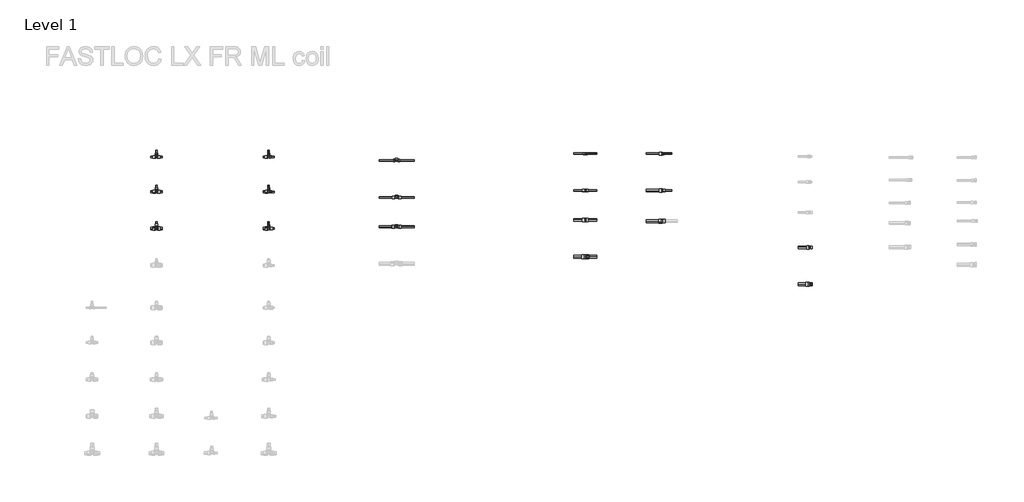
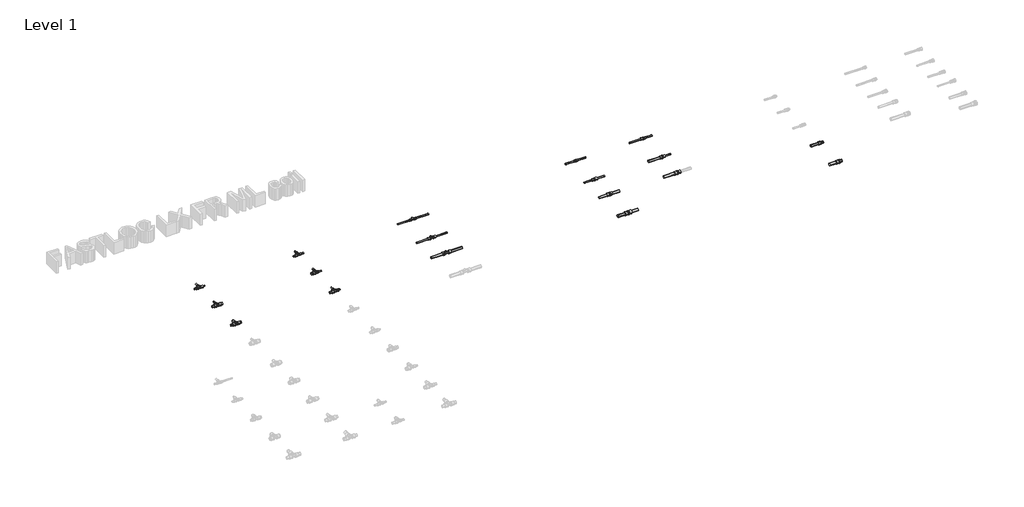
# One storey, part 35 of 78: 39 pipe segments, 18 pipe fittings.
"""IFC4 building model written with IfcOpenShell, lengths in millimetres."""

from ifc_helpers import new_model, si_unit, point, frame, frame_2d, origin, place, context, project, spatial, circle_curve, trimmed, segment, composite_curve, outline, extrude, transform, mapped, element, save
from components import pipe_fitting_027be69e, pipe_fitting_5ae7c970, pipe_fitting_e97a97d3, pipe_fitting_d9a56b63, pipe_fitting_8fb58d5f, pipe_fitting_db17a53a, pipe_fitting_3bea6388, pipe_fitting_d92d4423, pipe_fitting_47d0521d, pipe_fitting_29c4d4eb, pipe_fitting_1d22680d, pipe_fitting_5e3c5755, pipe_fitting_f5731c1c, pipe_fitting_0b32e4b0, pipe_fitting_0562571e, pipe_fitting_d14a7251, pipe_fitting_a999c26e, pipe_fitting_b01d00d0

model = new_model("IFC4")

# Units and contexts
model_context = context("Model", 3, world=origin())
ifc_project = project(units=[si_unit("LENGTHUNIT", "METRE", prefix="MILLI")], contexts=[model_context])

# Site, building, storey
site = spatial("IfcSite", under=ifc_project)
building = spatial("IfcBuilding", under=site)
storey = spatial("IfcBuildingStorey", under=building, Name="Level 1", Elevation=0.0)

# Pipe fittings
placement = place(None, origin())
pipe_fitting_shape = pipe_fitting_027be69e(model_context)
element("IfcPipeFitting", 1, ObjectType="FASTLOC_Coupling equal LX : FSL C LX FR", at=placement, inside=storey, context=model_context, shape_type="MappedRepresentation", body=[
    mapped(pipe_fitting_shape, transform((61088.3790161, -27105.8821283, 0.0), x_axis=(1.0, 0.0, 0.0), y_axis=(0.0, 1.0, 0.0), z_axis=(0.0, 0.0, 1.0))),
])
pipe_fitting_2_shape = pipe_fitting_5ae7c970(model_context)
element("IfcPipeFitting", 2, ObjectType="FASTLOC_T-piece_LX : FSL T-Piece LX FR", at=placement, inside=storey, context=model_context, shape_type="MappedRepresentation", body=[
    mapped(pipe_fitting_2_shape, transform((56426.7498072, -27140.2405791, 0.0), x_axis=(1.0, 0.0, 0.0), y_axis=(0.0, 1.0, 0.0), z_axis=(0.0, 0.0, 1.0))),
])
pipe_fitting_3_shape = pipe_fitting_e97a97d3(model_context)
element("IfcPipeFitting", 3, ObjectType="FASTLOC_T-piece_LX : FSL T-Piece LX FR", at=placement, inside=storey, context=model_context, shape_type="MappedRepresentation", body=[
    mapped(pipe_fitting_3_shape, transform((56426.7498072, -27520.2405791, 0.0), x_axis=(1.0, 0.0, 0.0), y_axis=(0.0, 1.0, 0.0), z_axis=(0.0, 0.0, 1.0))),
])
pipe_fitting_4_shape = pipe_fitting_d9a56b63(model_context)
element("IfcPipeFitting", 4, ObjectType="FASTLOC_T-piece_LX : FSL T-Piece LX FR", at=placement, inside=storey, context=model_context, shape_type="MappedRepresentation", body=[
    mapped(pipe_fitting_4_shape, transform((56426.7498072, -27920.2405791, 0.0), x_axis=(1.0, 0.0, 0.0), y_axis=(0.0, 1.0, 0.0), z_axis=(0.0, 0.0, 1.0))),
])
pipe_fitting_5_shape = pipe_fitting_8fb58d5f(model_context)
element("IfcPipeFitting", 5, ObjectType="FASTLOC_T-piece_LX : FSL T-Piece LX FR", at=placement, inside=storey, context=model_context, shape_type="MappedRepresentation", body=[
    mapped(pipe_fitting_5_shape, transform((57646.7498072, -27140.2405791, 0.0), x_axis=(1.0, 0.0, 0.0), y_axis=(0.0, 1.0, 0.0), z_axis=(0.0, 0.0, 1.0))),
])
pipe_fitting_6_shape = pipe_fitting_db17a53a(model_context)
element("IfcPipeFitting", 6, ObjectType="FASTLOC_T-piece_LX : FSL T-Piece LX FR", at=placement, inside=storey, context=model_context, shape_type="MappedRepresentation", body=[
    mapped(pipe_fitting_6_shape, transform((57646.7498072, -27520.2405791, 0.0), x_axis=(1.0, 0.0, 0.0), y_axis=(0.0, 1.0, 0.0), z_axis=(0.0, 0.0, 1.0))),
])
pipe_fitting_7_shape = pipe_fitting_3bea6388(model_context)
element("IfcPipeFitting", 7, ObjectType="FASTLOC_T-piece_LX : FSL T-Piece LX FR", at=placement, inside=storey, context=model_context, shape_type="MappedRepresentation", body=[
    mapped(pipe_fitting_7_shape, transform((57646.7498072, -27920.2405791, 0.0), x_axis=(1.0, 0.0, 0.0), y_axis=(0.0, 1.0, 0.0), z_axis=(0.0, 0.0, 1.0))),
])
pipe_fitting_8_shape = pipe_fitting_d92d4423(model_context)
element("IfcPipeFitting", 8, ObjectType="FASTLOC_T-piece internal thread LX : FSL T thread LX FR", at=placement, inside=storey, context=model_context, shape_type="MappedRepresentation", body=[
    mapped(pipe_fitting_8_shape, transform((59036.609585, -27179.8272875, 0.0), x_axis=(1.0, 0.0, 0.0), y_axis=(0.0, 1.0, 0.0), z_axis=(0.0, 0.0, 1.0))),
])
pipe_fitting_9_shape = pipe_fitting_47d0521d(model_context)
element("IfcPipeFitting", 9, ObjectType="FASTLOC_T-piece internal thread LX : FSL T thread LX FR", at=placement, inside=storey, context=model_context, shape_type="MappedRepresentation", body=[
    mapped(pipe_fitting_9_shape, transform((59036.609585, -27579.8272875, 0.0), x_axis=(1.0, 0.0, 0.0), y_axis=(0.0, 1.0, 0.0), z_axis=(0.0, 0.0, 1.0))),
])
pipe_fitting_10_shape = pipe_fitting_29c4d4eb(model_context)
element("IfcPipeFitting", 10, ObjectType="FASTLOC_T-piece internal thread LX : FSL T thread LX FR", at=placement, inside=storey, context=model_context, shape_type="MappedRepresentation", body=[
    mapped(pipe_fitting_10_shape, transform((59036.609585, -27899.8272875, 0.0), x_axis=(1.0, 0.0, 0.0), y_axis=(0.0, 1.0, 0.0), z_axis=(0.0, 0.0, 1.0))),
])
pipe_fitting_11_shape = pipe_fitting_1d22680d(model_context)
element("IfcPipeFitting", 11, ObjectType="FASTLOC_Coupling equal LX : FSL C LX FR", at=placement, inside=storey, context=model_context, shape_type="MappedRepresentation", body=[
    mapped(pipe_fitting_11_shape, transform((61088.3790161, -27505.8821283, 0.0), x_axis=(1.0, 0.0, 0.0), y_axis=(0.0, 1.0, 0.0), z_axis=(0.0, 0.0, 1.0))),
])
pipe_fitting_12_shape = pipe_fitting_5e3c5755(model_context)
element("IfcPipeFitting", 12, ObjectType="FASTLOC_Coupling equal LX : FSL C LX FR", at=placement, inside=storey, context=model_context, shape_type="MappedRepresentation", body=[
    mapped(pipe_fitting_12_shape, transform((61088.3790161, -27825.8821283, 0.0), x_axis=(1.0, 0.0, 0.0), y_axis=(0.0, 1.0, 0.0), z_axis=(0.0, 0.0, 1.0))),
])
pipe_fitting_13_shape = pipe_fitting_f5731c1c(model_context)
element("IfcPipeFitting", 13, ObjectType="FASTLOC_Coupling equal LX : FSL C LX FR", at=placement, inside=storey, context=model_context, shape_type="MappedRepresentation", body=[
    mapped(pipe_fitting_13_shape, transform((61088.3790161, -28225.8821283, 0.0), x_axis=(1.0, 0.0, 0.0), y_axis=(0.0, 1.0, 0.0), z_axis=(0.0, 0.0, 1.0))),
])
pipe_fitting_14_shape = pipe_fitting_0b32e4b0(model_context)
element("IfcPipeFitting", 14, ObjectType="FASTLOC_Coupling reduced LX : FSL C LX FR", at=placement, inside=storey, context=model_context, shape_type="MappedRepresentation", body=[
    mapped(pipe_fitting_14_shape, transform((61926.6928556, -27105.8821283, 0.0), x_axis=(1.0, 0.0, 0.0), y_axis=(0.0, 1.0, 0.0), z_axis=(0.0, 0.0, 1.0))),
])
pipe_fitting_15_shape = pipe_fitting_0562571e(model_context)
element("IfcPipeFitting", 15, ObjectType="FASTLOC_Coupling reduced LX : FSL C LX FR", at=placement, inside=storey, context=model_context, shape_type="MappedRepresentation", body=[
    mapped(pipe_fitting_15_shape, transform((61926.6928556, -27505.8821283, 0.0), x_axis=(1.0, 0.0, 0.0), y_axis=(0.0, 1.0, 0.0), z_axis=(0.0, 0.0, 1.0))),
])
pipe_fitting_16_shape = pipe_fitting_d14a7251(model_context)
element("IfcPipeFitting", 16, ObjectType="FASTLOC_Coupling reduced LX : FSL C LX FR", at=placement, inside=storey, context=model_context, shape_type="MappedRepresentation", body=[
    mapped(pipe_fitting_16_shape, transform((61926.6928556, -27838.3821283, 0.0), x_axis=(1.0, 0.0, 0.0), y_axis=(0.0, 1.0, 0.0), z_axis=(0.0, 0.0, 1.0))),
])
pipe_fitting_17_shape = pipe_fitting_a999c26e(model_context)
element("IfcPipeFitting", 17, ObjectType="FASTLOC_Adapter_LX, with external thread : FSL A C external FR", at=placement, inside=storey, context=model_context, shape_type="MappedRepresentation", body=[
    mapped(pipe_fitting_17_shape, transform((63526.8953131, -28124.2068389, 0.0), x_axis=(1.0, 0.0, 0.0), y_axis=(0.0, 1.0, 0.0), z_axis=(0.0, 0.0, 1.0))),
])
pipe_fitting_18_shape = pipe_fitting_b01d00d0(model_context)
element("IfcPipeFitting", 18, ObjectType="FASTLOC_Adapter_LX, with external thread : FSL A C external FR", at=placement, inside=storey, context=model_context, shape_type="MappedRepresentation", body=[
    mapped(pipe_fitting_18_shape, transform((63526.8953131, -28524.2068389, 0.0), x_axis=(1.0, 0.0, 0.0), y_axis=(0.0, 1.0, 0.0), z_axis=(0.0, 0.0, 1.0))),
])

# Pipe segments
element("IfcPipeSegment", 19, ObjectType="FASTLOC LX ML FR coil", at=placement, inside=storey, context=model_context, shape_type="SweptSolid", body=[
    extrude(outline(composite_curve([segment(trimmed(circle_curve(frame_2d((-27140.2405791, 0.0)), 8.0), [point((-27148.2405791, 0.0))], [point((-27140.2405791, 8.0))], False, "CARTESIAN"), True, "CONTINUOUS"), segment(trimmed(circle_curve(frame_2d((-27140.2405791, 0.0)), 8.0), [point((-27140.2405791, 8.0))], [point((-27132.2405791, 0.0))], False, "CARTESIAN"), True, "CONTINUOUS"), segment(trimmed(circle_curve(frame_2d((-27140.2405791, 0.0)), 8.0), [point((-27132.2405791, 0.0))], [point((-27140.2405791, -8.0))], False, "CARTESIAN"), True, "CONTINUOUS"), segment(trimmed(circle_curve(frame_2d((-27140.2405791, 0.0)), 8.0), [point((-27140.2405791, -8.0))], [point((-27148.2405791, 0.0))], False, "CARTESIAN"), True, "CONTINUOUS")], self_intersect=False)), frame((56442.0498072, 0.0, 0.0), z_axis=(1.0, 0.0, 0.0), x_axis=(0.0, 1.0, 0.0)), (0.0, 0.0, 1.0), 46.7),
])
element("IfcPipeSegment", 20, ObjectType="FASTLOC LX ML FR coil", at=placement, inside=storey, context=model_context, shape_type="SweptSolid", body=[
    extrude(outline(composite_curve([segment(trimmed(circle_curve(frame_2d((-27140.2405791, 0.0)), 8.0), [point((-27132.2405791, 0.0))], [point((-27140.2405791, -8.0))], False, "CARTESIAN"), True, "CONTINUOUS"), segment(trimmed(circle_curve(frame_2d((-27140.2405791, 0.0)), 8.0), [point((-27140.2405791, -8.0))], [point((-27148.2405791, 0.0))], False, "CARTESIAN"), True, "CONTINUOUS"), segment(trimmed(circle_curve(frame_2d((-27140.2405791, 0.0)), 8.0), [point((-27148.2405791, 0.0))], [point((-27140.2405791, 8.0))], False, "CARTESIAN"), True, "CONTINUOUS"), segment(trimmed(circle_curve(frame_2d((-27140.2405791, 0.0)), 8.0), [point((-27140.2405791, 8.0))], [point((-27132.2405791, 0.0))], False, "CARTESIAN"), True, "CONTINUOUS")], self_intersect=False)), frame((56364.7498072, 0.0, 0.0), z_axis=(1.0, 0.0, 0.0), x_axis=(0.0, 1.0, 0.0)), (0.0, 0.0, 1.0), 46.7),
])
element("IfcPipeSegment", 21, ObjectType="FASTLOC LX ML FR coil", at=placement, inside=storey, context=model_context, shape_type="SweptSolid", body=[
    extrude(outline(composite_curve([segment(trimmed(circle_curve(frame_2d((0.0, 56426.7498072)), 8.0), [point((0.0, 56434.7498072))], [point((8.0, 56426.7498072))], False, "CARTESIAN"), True, "CONTINUOUS"), segment(trimmed(circle_curve(frame_2d((0.0, 56426.7498072)), 8.0), [point((8.0, 56426.7498072))], [point((0.0, 56418.7498072))], False, "CARTESIAN"), True, "CONTINUOUS"), segment(trimmed(circle_curve(frame_2d((0.0, 56426.7498072)), 8.0), [point((0.0, 56418.7498072))], [point((-8.0, 56426.7498072))], False, "CARTESIAN"), True, "CONTINUOUS"), segment(trimmed(circle_curve(frame_2d((0.0, 56426.7498072)), 8.0), [point((-8.0, 56426.7498072))], [point((0.0, 56434.7498072))], False, "CARTESIAN"), True, "CONTINUOUS")], self_intersect=False)), frame((0.0, -27113.9405791, 0.0), z_axis=(0.0, 1.0, 0.0), x_axis=(0.0, 0.0, 1.0)), (0.0, 0.0, 1.0), 46.0),
])
element("IfcPipeSegment", 22, ObjectType="FASTLOC LX ML FR coil", at=placement, inside=storey, context=model_context, shape_type="SweptSolid", body=[
    extrude(outline(composite_curve([segment(trimmed(circle_curve(frame_2d((-27520.2405791, 0.0)), 12.5), [point((-27532.7405791, 0.0))], [point((-27520.2405791, 12.5))], False, "CARTESIAN"), True, "CONTINUOUS"), segment(trimmed(circle_curve(frame_2d((-27520.2405791, 0.0)), 12.5), [point((-27520.2405791, 12.5))], [point((-27507.7405791, 0.0))], False, "CARTESIAN"), True, "CONTINUOUS"), segment(trimmed(circle_curve(frame_2d((-27520.2405791, 0.0)), 12.5), [point((-27507.7405791, 0.0))], [point((-27520.2405791, -12.5))], False, "CARTESIAN"), True, "CONTINUOUS"), segment(trimmed(circle_curve(frame_2d((-27520.2405791, 0.0)), 12.5), [point((-27520.2405791, -12.5))], [point((-27532.7405791, 0.0))], False, "CARTESIAN"), True, "CONTINUOUS")], self_intersect=False)), frame((56442.9498072, 0.0, 0.0), z_axis=(1.0, 0.0, 0.0), x_axis=(0.0, 1.0, 0.0)), (0.0, 0.0, 1.0), 45.8),
])
element("IfcPipeSegment", 23, ObjectType="FASTLOC LX ML FR coil", at=placement, inside=storey, context=model_context, shape_type="SweptSolid", body=[
    extrude(outline(composite_curve([segment(trimmed(circle_curve(frame_2d((-27520.2405791, 0.0)), 12.5), [point((-27507.7405791, 0.0))], [point((-27520.2405791, -12.5))], False, "CARTESIAN"), True, "CONTINUOUS"), segment(trimmed(circle_curve(frame_2d((-27520.2405791, 0.0)), 12.5), [point((-27520.2405791, -12.5))], [point((-27532.7405791, 0.0))], False, "CARTESIAN"), True, "CONTINUOUS"), segment(trimmed(circle_curve(frame_2d((-27520.2405791, 0.0)), 12.5), [point((-27532.7405791, 0.0))], [point((-27520.2405791, 12.5))], False, "CARTESIAN"), True, "CONTINUOUS"), segment(trimmed(circle_curve(frame_2d((-27520.2405791, 0.0)), 12.5), [point((-27520.2405791, 12.5))], [point((-27507.7405791, 0.0))], False, "CARTESIAN"), True, "CONTINUOUS")], self_intersect=False)), frame((56364.7498072, 0.0, 0.0), z_axis=(1.0, 0.0, 0.0), x_axis=(0.0, 1.0, 0.0)), (0.0, 0.0, 1.0), 45.8),
])
element("IfcPipeSegment", 24, ObjectType="FASTLOC LX ML FR coil", at=placement, inside=storey, context=model_context, shape_type="SweptSolid", body=[
    extrude(outline(composite_curve([segment(trimmed(circle_curve(frame_2d((0.0, 56426.7498072)), 8.0), [point((0.0, 56434.7498072))], [point((8.0, 56426.7498072))], False, "CARTESIAN"), True, "CONTINUOUS"), segment(trimmed(circle_curve(frame_2d((0.0, 56426.7498072)), 8.0), [point((8.0, 56426.7498072))], [point((0.0, 56418.7498072))], False, "CARTESIAN"), True, "CONTINUOUS"), segment(trimmed(circle_curve(frame_2d((0.0, 56426.7498072)), 8.0), [point((0.0, 56418.7498072))], [point((-8.0, 56426.7498072))], False, "CARTESIAN"), True, "CONTINUOUS"), segment(trimmed(circle_curve(frame_2d((0.0, 56426.7498072)), 8.0), [point((-8.0, 56426.7498072))], [point((0.0, 56434.7498072))], False, "CARTESIAN"), True, "CONTINUOUS")], self_intersect=False)), frame((0.0, -27491.2405791, 0.0), z_axis=(0.0, 1.0, 0.0), x_axis=(0.0, 0.0, 1.0)), (0.0, 0.0, 1.0), 43.3),
])
element("IfcPipeSegment", 25, ObjectType="FASTLOC LX ML FR coil", at=placement, inside=storey, context=model_context, shape_type="SweptSolid", body=[
    extrude(outline(composite_curve([segment(trimmed(circle_curve(frame_2d((-27920.2405791, 0.0)), 12.5), [point((-27932.7405791, 0.0))], [point((-27920.2405791, 12.5))], False, "CARTESIAN"), True, "CONTINUOUS"), segment(trimmed(circle_curve(frame_2d((-27920.2405791, 0.0)), 12.5), [point((-27920.2405791, 12.5))], [point((-27907.7405791, 0.0))], False, "CARTESIAN"), True, "CONTINUOUS"), segment(trimmed(circle_curve(frame_2d((-27920.2405791, 0.0)), 12.5), [point((-27907.7405791, 0.0))], [point((-27920.2405791, -12.5))], False, "CARTESIAN"), True, "CONTINUOUS"), segment(trimmed(circle_curve(frame_2d((-27920.2405791, 0.0)), 12.5), [point((-27920.2405791, -12.5))], [point((-27932.7405791, 0.0))], False, "CARTESIAN"), True, "CONTINUOUS")], self_intersect=False)), frame((56444.8498072, 0.0, 0.0), z_axis=(1.0, 0.0, 0.0), x_axis=(0.0, 1.0, 0.0)), (0.0, 0.0, 1.0), 43.9),
])
element("IfcPipeSegment", 26, ObjectType="FASTLOC LX ML FR coil", at=placement, inside=storey, context=model_context, shape_type="SweptSolid", body=[
    extrude(outline(composite_curve([segment(trimmed(circle_curve(frame_2d((-27920.2405791, 0.0)), 12.5), [point((-27907.7405791, 0.0))], [point((-27920.2405791, -12.5))], False, "CARTESIAN"), True, "CONTINUOUS"), segment(trimmed(circle_curve(frame_2d((-27920.2405791, 0.0)), 12.5), [point((-27920.2405791, -12.5))], [point((-27932.7405791, 0.0))], False, "CARTESIAN"), True, "CONTINUOUS"), segment(trimmed(circle_curve(frame_2d((-27920.2405791, 0.0)), 12.5), [point((-27932.7405791, 0.0))], [point((-27920.2405791, 12.5))], False, "CARTESIAN"), True, "CONTINUOUS"), segment(trimmed(circle_curve(frame_2d((-27920.2405791, 0.0)), 12.5), [point((-27920.2405791, 12.5))], [point((-27907.7405791, 0.0))], False, "CARTESIAN"), True, "CONTINUOUS")], self_intersect=False)), frame((56364.7498072, 0.0, 0.0), z_axis=(1.0, 0.0, 0.0), x_axis=(0.0, 1.0, 0.0)), (0.0, 0.0, 1.0), 43.9),
])
element("IfcPipeSegment", 27, ObjectType="FASTLOC LX ML FR coil", at=placement, inside=storey, context=model_context, shape_type="SweptSolid", body=[
    extrude(outline(composite_curve([segment(trimmed(circle_curve(frame_2d((0.0, 56426.7498072)), 8.0), [point((0.0, 56434.7498072))], [point((8.0, 56426.7498072))], False, "CARTESIAN"), True, "CONTINUOUS"), segment(trimmed(circle_curve(frame_2d((0.0, 56426.7498072)), 8.0), [point((8.0, 56426.7498072))], [point((0.0, 56418.7498072))], False, "CARTESIAN"), True, "CONTINUOUS"), segment(trimmed(circle_curve(frame_2d((0.0, 56426.7498072)), 8.0), [point((0.0, 56418.7498072))], [point((-8.0, 56426.7498072))], False, "CARTESIAN"), True, "CONTINUOUS"), segment(trimmed(circle_curve(frame_2d((0.0, 56426.7498072)), 8.0), [point((-8.0, 56426.7498072))], [point((0.0, 56434.7498072))], False, "CARTESIAN"), True, "CONTINUOUS")], self_intersect=False)), frame((0.0, -27891.0405791, 0.0), z_axis=(0.0, 1.0, 0.0), x_axis=(0.0, 0.0, 1.0)), (0.0, 0.0, 1.0), 43.1),
])
element("IfcPipeSegment", 28, ObjectType="FASTLOC LX ML FR coil", at=placement, inside=storey, context=model_context, shape_type="SweptSolid", body=[
    extrude(outline(composite_curve([segment(trimmed(circle_curve(frame_2d((-27140.2405791, 0.0)), 8.0), [point((-27148.2405791, 0.0))], [point((-27140.2405791, 8.0))], False, "CARTESIAN"), True, "CONTINUOUS"), segment(trimmed(circle_curve(frame_2d((-27140.2405791, 0.0)), 8.0), [point((-27140.2405791, 8.0))], [point((-27132.2405791, 0.0))], False, "CARTESIAN"), True, "CONTINUOUS"), segment(trimmed(circle_curve(frame_2d((-27140.2405791, 0.0)), 8.0), [point((-27132.2405791, 0.0))], [point((-27140.2405791, -8.0))], False, "CARTESIAN"), True, "CONTINUOUS"), segment(trimmed(circle_curve(frame_2d((-27140.2405791, 0.0)), 8.0), [point((-27140.2405791, -8.0))], [point((-27148.2405791, 0.0))], False, "CARTESIAN"), True, "CONTINUOUS")], self_intersect=False)), frame((57661.8498072, 0.0, 0.0), z_axis=(1.0, 0.0, 0.0), x_axis=(0.0, 1.0, 0.0)), (0.0, 0.0, 1.0), 46.9),
])
element("IfcPipeSegment", 29, ObjectType="FASTLOC LX ML FR coil", at=placement, inside=storey, context=model_context, shape_type="SweptSolid", body=[
    extrude(outline(composite_curve([segment(trimmed(circle_curve(frame_2d((-27140.2405791, 0.0)), 8.0), [point((-27132.2405791, 0.0))], [point((-27140.2405791, -8.0))], False, "CARTESIAN"), True, "CONTINUOUS"), segment(trimmed(circle_curve(frame_2d((-27140.2405791, 0.0)), 8.0), [point((-27140.2405791, -8.0))], [point((-27148.2405791, 0.0))], False, "CARTESIAN"), True, "CONTINUOUS"), segment(trimmed(circle_curve(frame_2d((-27140.2405791, 0.0)), 8.0), [point((-27148.2405791, 0.0))], [point((-27140.2405791, 8.0))], False, "CARTESIAN"), True, "CONTINUOUS"), segment(trimmed(circle_curve(frame_2d((-27140.2405791, 0.0)), 8.0), [point((-27140.2405791, 8.0))], [point((-27132.2405791, 0.0))], False, "CARTESIAN"), True, "CONTINUOUS")], self_intersect=False)), frame((57584.7498072, 0.0, 0.0), z_axis=(1.0, 0.0, 0.0), x_axis=(0.0, 1.0, 0.0)), (0.0, 0.0, 1.0), 46.5),
])
element("IfcPipeSegment", 30, ObjectType="FASTLOC LX ML FR coil", at=placement, inside=storey, context=model_context, shape_type="SweptSolid", body=[
    extrude(outline(composite_curve([segment(trimmed(circle_curve(frame_2d((0.0, 57646.7498072)), 8.0), [point((0.0, 57654.7498072))], [point((8.0, 57646.7498072))], False, "CARTESIAN"), True, "CONTINUOUS"), segment(trimmed(circle_curve(frame_2d((0.0, 57646.7498072)), 8.0), [point((8.0, 57646.7498072))], [point((0.0, 57638.7498072))], False, "CARTESIAN"), True, "CONTINUOUS"), segment(trimmed(circle_curve(frame_2d((0.0, 57646.7498072)), 8.0), [point((0.0, 57638.7498072))], [point((-8.0, 57646.7498072))], False, "CARTESIAN"), True, "CONTINUOUS"), segment(trimmed(circle_curve(frame_2d((0.0, 57646.7498072)), 8.0), [point((-8.0, 57646.7498072))], [point((0.0, 57654.7498072))], False, "CARTESIAN"), True, "CONTINUOUS")], self_intersect=False)), frame((0.0, -27113.8405791, 0.0), z_axis=(0.0, 1.0, 0.0), x_axis=(0.0, 0.0, 1.0)), (0.0, 0.0, 1.0), 45.9),
])
element("IfcPipeSegment", 31, ObjectType="FASTLOC LX ML FR coil", at=placement, inside=storey, context=model_context, shape_type="SweptSolid", body=[
    extrude(outline(composite_curve([segment(trimmed(circle_curve(frame_2d((-27520.2405791, 0.0)), 8.0), [point((-27528.2405791, 0.0))], [point((-27520.2405791, 8.0))], False, "CARTESIAN"), True, "CONTINUOUS"), segment(trimmed(circle_curve(frame_2d((-27520.2405791, 0.0)), 8.0), [point((-27520.2405791, 8.0))], [point((-27512.2405791, 0.0))], False, "CARTESIAN"), True, "CONTINUOUS"), segment(trimmed(circle_curve(frame_2d((-27520.2405791, 0.0)), 8.0), [point((-27512.2405791, 0.0))], [point((-27520.2405791, -8.0))], False, "CARTESIAN"), True, "CONTINUOUS"), segment(trimmed(circle_curve(frame_2d((-27520.2405791, 0.0)), 8.0), [point((-27520.2405791, -8.0))], [point((-27528.2405791, 0.0))], False, "CARTESIAN"), True, "CONTINUOUS")], self_intersect=False)), frame((57661.8498072, 0.0, 0.0), z_axis=(1.0, 0.0, 0.0), x_axis=(0.0, 1.0, 0.0)), (0.0, 0.0, 1.0), 46.9),
])
element("IfcPipeSegment", 32, ObjectType="FASTLOC LX ML FR coil", at=placement, inside=storey, context=model_context, shape_type="SweptSolid", body=[
    extrude(outline(composite_curve([segment(trimmed(circle_curve(frame_2d((-27520.2405791, 0.0)), 12.5), [point((-27507.7405791, 0.0))], [point((-27520.2405791, -12.5))], False, "CARTESIAN"), True, "CONTINUOUS"), segment(trimmed(circle_curve(frame_2d((-27520.2405791, 0.0)), 12.5), [point((-27520.2405791, -12.5))], [point((-27532.7405791, 0.0))], False, "CARTESIAN"), True, "CONTINUOUS"), segment(trimmed(circle_curve(frame_2d((-27520.2405791, 0.0)), 12.5), [point((-27532.7405791, 0.0))], [point((-27520.2405791, 12.5))], False, "CARTESIAN"), True, "CONTINUOUS"), segment(trimmed(circle_curve(frame_2d((-27520.2405791, 0.0)), 12.5), [point((-27520.2405791, 12.5))], [point((-27507.7405791, 0.0))], False, "CARTESIAN"), True, "CONTINUOUS")], self_intersect=False)), frame((57584.7498072, 0.0, 0.0), z_axis=(1.0, 0.0, 0.0), x_axis=(0.0, 1.0, 0.0)), (0.0, 0.0, 1.0), 45.6),
])
element("IfcPipeSegment", 33, ObjectType="FASTLOC LX ML FR coil", at=placement, inside=storey, context=model_context, shape_type="SweptSolid", body=[
    extrude(outline(composite_curve([segment(trimmed(circle_curve(frame_2d((0.0, 57646.7498072)), 8.0), [point((0.0, 57654.7498072))], [point((8.0, 57646.7498072))], False, "CARTESIAN"), True, "CONTINUOUS"), segment(trimmed(circle_curve(frame_2d((0.0, 57646.7498072)), 8.0), [point((8.0, 57646.7498072))], [point((0.0, 57638.7498072))], False, "CARTESIAN"), True, "CONTINUOUS"), segment(trimmed(circle_curve(frame_2d((0.0, 57646.7498072)), 8.0), [point((0.0, 57638.7498072))], [point((-8.0, 57646.7498072))], False, "CARTESIAN"), True, "CONTINUOUS"), segment(trimmed(circle_curve(frame_2d((0.0, 57646.7498072)), 8.0), [point((-8.0, 57646.7498072))], [point((0.0, 57654.7498072))], False, "CARTESIAN"), True, "CONTINUOUS")], self_intersect=False)), frame((0.0, -27491.1405791, 0.0), z_axis=(0.0, 1.0, 0.0), x_axis=(0.0, 0.0, 1.0)), (0.0, 0.0, 1.0), 43.2),
])
element("IfcPipeSegment", 34, ObjectType="FASTLOC LX ML FR coil", at=placement, inside=storey, context=model_context, shape_type="SweptSolid", body=[
    extrude(outline(composite_curve([segment(trimmed(circle_curve(frame_2d((-27920.2405791, 0.0)), 8.0), [point((-27928.2405791, 0.0))], [point((-27920.2405791, 8.0))], False, "CARTESIAN"), True, "CONTINUOUS"), segment(trimmed(circle_curve(frame_2d((-27920.2405791, 0.0)), 8.0), [point((-27920.2405791, 8.0))], [point((-27912.2405791, 0.0))], False, "CARTESIAN"), True, "CONTINUOUS"), segment(trimmed(circle_curve(frame_2d((-27920.2405791, 0.0)), 8.0), [point((-27912.2405791, 0.0))], [point((-27920.2405791, -8.0))], False, "CARTESIAN"), True, "CONTINUOUS"), segment(trimmed(circle_curve(frame_2d((-27920.2405791, 0.0)), 8.0), [point((-27920.2405791, -8.0))], [point((-27928.2405791, 0.0))], False, "CARTESIAN"), True, "CONTINUOUS")], self_intersect=False)), frame((57662.2498072, 0.0, 0.0), z_axis=(1.0, 0.0, 0.0), x_axis=(0.0, 1.0, 0.0)), (0.0, 0.0, 1.0), 46.5),
])
element("IfcPipeSegment", 35, ObjectType="FASTLOC LX ML FR coil", at=placement, inside=storey, context=model_context, shape_type="SweptSolid", body=[
    extrude(outline(composite_curve([segment(trimmed(circle_curve(frame_2d((-27920.2405791, 0.0)), 12.5), [point((-27907.7405791, 0.0))], [point((-27920.2405791, -12.5))], False, "CARTESIAN"), True, "CONTINUOUS"), segment(trimmed(circle_curve(frame_2d((-27920.2405791, 0.0)), 12.5), [point((-27920.2405791, -12.5))], [point((-27932.7405791, 0.0))], False, "CARTESIAN"), True, "CONTINUOUS"), segment(trimmed(circle_curve(frame_2d((-27920.2405791, 0.0)), 12.5), [point((-27932.7405791, 0.0))], [point((-27920.2405791, 12.5))], False, "CARTESIAN"), True, "CONTINUOUS"), segment(trimmed(circle_curve(frame_2d((-27920.2405791, 0.0)), 12.5), [point((-27920.2405791, 12.5))], [point((-27907.7405791, 0.0))], False, "CARTESIAN"), True, "CONTINUOUS")], self_intersect=False)), frame((57584.7498072, 0.0, 0.0), z_axis=(1.0, 0.0, 0.0), x_axis=(0.0, 1.0, 0.0)), (0.0, 0.0, 1.0), 45.6),
])
element("IfcPipeSegment", 36, ObjectType="FASTLOC LX ML FR coil", at=placement, inside=storey, context=model_context, shape_type="SweptSolid", body=[
    extrude(outline(composite_curve([segment(trimmed(circle_curve(frame_2d((0.0, 57646.7498072)), 8.0), [point((0.0, 57654.7498072))], [point((8.0, 57646.7498072))], False, "CARTESIAN"), True, "CONTINUOUS"), segment(trimmed(circle_curve(frame_2d((0.0, 57646.7498072)), 8.0), [point((8.0, 57646.7498072))], [point((0.0, 57638.7498072))], False, "CARTESIAN"), True, "CONTINUOUS"), segment(trimmed(circle_curve(frame_2d((0.0, 57646.7498072)), 8.0), [point((0.0, 57638.7498072))], [point((-8.0, 57646.7498072))], False, "CARTESIAN"), True, "CONTINUOUS"), segment(trimmed(circle_curve(frame_2d((0.0, 57646.7498072)), 8.0), [point((-8.0, 57646.7498072))], [point((0.0, 57654.7498072))], False, "CARTESIAN"), True, "CONTINUOUS")], self_intersect=False)), frame((0.0, -27891.1405791, 0.0), z_axis=(0.0, 1.0, 0.0), x_axis=(0.0, 0.0, 1.0)), (0.0, 0.0, 1.0), 43.2),
])
element("IfcPipeSegment", 37, ObjectType="FASTLOC LX ML FR coil", at=placement, inside=storey, context=model_context, shape_type="SweptSolid", body=[
    extrude(outline(composite_curve([segment(trimmed(circle_curve(frame_2d((-27179.8272875, 0.0)), 8.0), [point((-27187.8272875, 0.0))], [point((-27179.8272875, 8.0))], False, "CARTESIAN"), True, "CONTINUOUS"), segment(trimmed(circle_curve(frame_2d((-27179.8272875, 0.0)), 8.0), [point((-27179.8272875, 8.0))], [point((-27171.8272875, 0.0))], False, "CARTESIAN"), True, "CONTINUOUS"), segment(trimmed(circle_curve(frame_2d((-27179.8272875, 0.0)), 8.0), [point((-27171.8272875, 0.0))], [point((-27179.8272875, -8.0))], False, "CARTESIAN"), True, "CONTINUOUS"), segment(trimmed(circle_curve(frame_2d((-27179.8272875, 0.0)), 8.0), [point((-27179.8272875, -8.0))], [point((-27187.8272875, 0.0))], False, "CARTESIAN"), True, "CONTINUOUS")], self_intersect=False)), frame((59058.609585, 0.0, 0.0), z_axis=(1.0, 0.0, 0.0), x_axis=(0.0, 1.0, 0.0)), (0.0, 0.0, 1.0), 170.0),
])
element("IfcPipeSegment", 38, ObjectType="FASTLOC LX ML FR coil", at=placement, inside=storey, context=model_context, shape_type="SweptSolid", body=[
    extrude(outline(composite_curve([segment(trimmed(circle_curve(frame_2d((-27179.8272875, 0.0)), 8.0), [point((-27171.8272875, 0.0))], [point((-27179.8272875, -8.0))], False, "CARTESIAN"), True, "CONTINUOUS"), segment(trimmed(circle_curve(frame_2d((-27179.8272875, 0.0)), 8.0), [point((-27179.8272875, -8.0))], [point((-27187.8272875, 0.0))], False, "CARTESIAN"), True, "CONTINUOUS"), segment(trimmed(circle_curve(frame_2d((-27179.8272875, 0.0)), 8.0), [point((-27187.8272875, 0.0))], [point((-27179.8272875, 8.0))], False, "CARTESIAN"), True, "CONTINUOUS"), segment(trimmed(circle_curve(frame_2d((-27179.8272875, 0.0)), 8.0), [point((-27179.8272875, 8.0))], [point((-27171.8272875, 0.0))], False, "CARTESIAN"), True, "CONTINUOUS")], self_intersect=False)), frame((58849.609585, 0.0, 0.0), z_axis=(1.0, 0.0, 0.0), x_axis=(0.0, 1.0, 0.0)), (0.0, 0.0, 1.0), 165.0),
])
element("IfcPipeSegment", 39, ObjectType="FASTLOC LX ML FR coil", at=placement, inside=storey, context=model_context, shape_type="SweptSolid", body=[
    extrude(outline(composite_curve([segment(trimmed(circle_curve(frame_2d((-27579.8272875, 0.0)), 8.0), [point((-27587.8272875, 0.0))], [point((-27579.8272875, 8.0))], False, "CARTESIAN"), True, "CONTINUOUS"), segment(trimmed(circle_curve(frame_2d((-27579.8272875, 0.0)), 8.0), [point((-27579.8272875, 8.0))], [point((-27571.8272875, 0.0))], False, "CARTESIAN"), True, "CONTINUOUS"), segment(trimmed(circle_curve(frame_2d((-27579.8272875, 0.0)), 8.0), [point((-27571.8272875, 0.0))], [point((-27579.8272875, -8.0))], False, "CARTESIAN"), True, "CONTINUOUS"), segment(trimmed(circle_curve(frame_2d((-27579.8272875, 0.0)), 8.0), [point((-27579.8272875, -8.0))], [point((-27587.8272875, 0.0))], False, "CARTESIAN"), True, "CONTINUOUS")], self_intersect=False)), frame((59059.109585, 0.0, 0.0), z_axis=(1.0, 0.0, 0.0), x_axis=(0.0, 1.0, 0.0)), (0.0, 0.0, 1.0), 169.5),
])
element("IfcPipeSegment", 40, ObjectType="FASTLOC LX ML FR coil", at=placement, inside=storey, context=model_context, shape_type="SweptSolid", body=[
    extrude(outline(composite_curve([segment(trimmed(circle_curve(frame_2d((-27579.8272875, 0.0)), 8.0), [point((-27571.8272875, 0.0))], [point((-27579.8272875, -8.0))], False, "CARTESIAN"), True, "CONTINUOUS"), segment(trimmed(circle_curve(frame_2d((-27579.8272875, 0.0)), 8.0), [point((-27579.8272875, -8.0))], [point((-27587.8272875, 0.0))], False, "CARTESIAN"), True, "CONTINUOUS"), segment(trimmed(circle_curve(frame_2d((-27579.8272875, 0.0)), 8.0), [point((-27587.8272875, 0.0))], [point((-27579.8272875, 8.0))], False, "CARTESIAN"), True, "CONTINUOUS"), segment(trimmed(circle_curve(frame_2d((-27579.8272875, 0.0)), 8.0), [point((-27579.8272875, 8.0))], [point((-27571.8272875, 0.0))], False, "CARTESIAN"), True, "CONTINUOUS")], self_intersect=False)), frame((58849.609585, 0.0, 0.0), z_axis=(1.0, 0.0, 0.0), x_axis=(0.0, 1.0, 0.0)), (0.0, 0.0, 1.0), 164.5),
])
element("IfcPipeSegment", 41, ObjectType="FASTLOC LX ML FR coil", at=placement, inside=storey, context=model_context, shape_type="SweptSolid", body=[
    extrude(outline(composite_curve([segment(trimmed(circle_curve(frame_2d((-27899.8272875, 0.0)), 12.5), [point((-27912.3272875, 0.0))], [point((-27899.8272875, 12.5))], False, "CARTESIAN"), True, "CONTINUOUS"), segment(trimmed(circle_curve(frame_2d((-27899.8272875, 0.0)), 12.5), [point((-27899.8272875, 12.5))], [point((-27887.3272875, 0.0))], False, "CARTESIAN"), True, "CONTINUOUS"), segment(trimmed(circle_curve(frame_2d((-27899.8272875, 0.0)), 12.5), [point((-27887.3272875, 0.0))], [point((-27899.8272875, -12.5))], False, "CARTESIAN"), True, "CONTINUOUS"), segment(trimmed(circle_curve(frame_2d((-27899.8272875, 0.0)), 12.5), [point((-27899.8272875, -12.5))], [point((-27912.3272875, 0.0))], False, "CARTESIAN"), True, "CONTINUOUS")], self_intersect=False)), frame((59063.309585, 0.0, 0.0), z_axis=(1.0, 0.0, 0.0), x_axis=(0.0, 1.0, 0.0)), (0.0, 0.0, 1.0), 165.3),
])
element("IfcPipeSegment", 42, ObjectType="FASTLOC LX ML FR coil", at=placement, inside=storey, context=model_context, shape_type="SweptSolid", body=[
    extrude(outline(composite_curve([segment(trimmed(circle_curve(frame_2d((-27899.8272875, 0.0)), 12.5), [point((-27887.3272875, 0.0))], [point((-27899.8272875, -12.5))], False, "CARTESIAN"), True, "CONTINUOUS"), segment(trimmed(circle_curve(frame_2d((-27899.8272875, 0.0)), 12.5), [point((-27899.8272875, -12.5))], [point((-27912.3272875, 0.0))], False, "CARTESIAN"), True, "CONTINUOUS"), segment(trimmed(circle_curve(frame_2d((-27899.8272875, 0.0)), 12.5), [point((-27912.3272875, 0.0))], [point((-27899.8272875, 12.5))], False, "CARTESIAN"), True, "CONTINUOUS"), segment(trimmed(circle_curve(frame_2d((-27899.8272875, 0.0)), 12.5), [point((-27899.8272875, 12.5))], [point((-27887.3272875, 0.0))], False, "CARTESIAN"), True, "CONTINUOUS")], self_intersect=False)), frame((58849.609585, 0.0, 0.0), z_axis=(1.0, 0.0, 0.0), x_axis=(0.0, 1.0, 0.0)), (0.0, 0.0, 1.0), 160.3),
])
element("IfcPipeSegment", 43, ObjectType="FASTLOC LX ML FR coil", at=placement, inside=storey, context=model_context, shape_type="SweptSolid", body=[
    extrude(outline(composite_curve([segment(trimmed(circle_curve(frame_2d((-27105.8821283, 0.0)), 8.0), [point((-27113.8821283, 0.0))], [point((-27105.8821283, 8.0))], False, "CARTESIAN"), True, "CONTINUOUS"), segment(trimmed(circle_curve(frame_2d((-27105.8821283, 0.0)), 8.0), [point((-27105.8821283, 8.0))], [point((-27097.8821283, 0.0))], False, "CARTESIAN"), True, "CONTINUOUS"), segment(trimmed(circle_curve(frame_2d((-27105.8821283, 0.0)), 8.0), [point((-27097.8821283, 0.0))], [point((-27105.8821283, -8.0))], False, "CARTESIAN"), True, "CONTINUOUS"), segment(trimmed(circle_curve(frame_2d((-27105.8821283, 0.0)), 8.0), [point((-27105.8821283, -8.0))], [point((-27113.8821283, 0.0))], False, "CARTESIAN"), True, "CONTINUOUS")], self_intersect=False)), frame((61095.5790161, 0.0, 0.0), z_axis=(1.0, 0.0, 0.0), x_axis=(0.0, 1.0, 0.0)), (0.0, 0.0, 1.0), 115.0),
])
element("IfcPipeSegment", 44, ObjectType="FASTLOC LX ML FR coil", at=placement, inside=storey, context=model_context, shape_type="SweptSolid", body=[
    extrude(outline(composite_curve([segment(trimmed(circle_curve(frame_2d((-27105.8821283, 0.0)), 8.0), [point((-27097.8821283, 0.0))], [point((-27105.8821283, -8.0))], False, "CARTESIAN"), True, "CONTINUOUS"), segment(trimmed(circle_curve(frame_2d((-27105.8821283, 0.0)), 8.0), [point((-27105.8821283, -8.0))], [point((-27113.8821283, 0.0))], False, "CARTESIAN"), True, "CONTINUOUS"), segment(trimmed(circle_curve(frame_2d((-27105.8821283, 0.0)), 8.0), [point((-27113.8821283, 0.0))], [point((-27105.8821283, 8.0))], False, "CARTESIAN"), True, "CONTINUOUS"), segment(trimmed(circle_curve(frame_2d((-27105.8821283, 0.0)), 8.0), [point((-27105.8821283, 8.0))], [point((-27097.8821283, 0.0))], False, "CARTESIAN"), True, "CONTINUOUS")], self_intersect=False)), frame((60961.1790161, 0.0, 0.0), z_axis=(1.0, 0.0, 0.0), x_axis=(0.0, 1.0, 0.0)), (0.0, 0.0, 1.0), 120.0),
])
element("IfcPipeSegment", 45, ObjectType="FASTLOC LX ML FR coil", at=placement, inside=storey, context=model_context, shape_type="SweptSolid", body=[
    extrude(outline(composite_curve([segment(trimmed(circle_curve(frame_2d((-27505.8821283, 0.0)), 8.0), [point((-27513.8821283, 0.0))], [point((-27505.8821283, 8.0))], False, "CARTESIAN"), True, "CONTINUOUS"), segment(trimmed(circle_curve(frame_2d((-27505.8821283, 0.0)), 8.0), [point((-27505.8821283, 8.0))], [point((-27497.8821283, 0.0))], False, "CARTESIAN"), True, "CONTINUOUS"), segment(trimmed(circle_curve(frame_2d((-27505.8821283, 0.0)), 8.0), [point((-27497.8821283, 0.0))], [point((-27505.8821283, -8.0))], False, "CARTESIAN"), True, "CONTINUOUS"), segment(trimmed(circle_curve(frame_2d((-27505.8821283, 0.0)), 8.0), [point((-27505.8821283, -8.0))], [point((-27513.8821283, 0.0))], False, "CARTESIAN"), True, "CONTINUOUS")], self_intersect=False)), frame((61095.7790161, 0.0, 0.0), z_axis=(1.0, 0.0, 0.0), x_axis=(0.0, 1.0, 0.0)), (0.0, 0.0, 1.0), 114.8),
])
element("IfcPipeSegment", 46, ObjectType="FASTLOC LX ML FR coil", at=placement, inside=storey, context=model_context, shape_type="SweptSolid", body=[
    extrude(outline(composite_curve([segment(trimmed(circle_curve(frame_2d((-27505.8821283, 0.0)), 8.0), [point((-27497.8821283, 0.0))], [point((-27505.8821283, -8.0))], False, "CARTESIAN"), True, "CONTINUOUS"), segment(trimmed(circle_curve(frame_2d((-27505.8821283, 0.0)), 8.0), [point((-27505.8821283, -8.0))], [point((-27513.8821283, 0.0))], False, "CARTESIAN"), True, "CONTINUOUS"), segment(trimmed(circle_curve(frame_2d((-27505.8821283, 0.0)), 8.0), [point((-27513.8821283, 0.0))], [point((-27505.8821283, 8.0))], False, "CARTESIAN"), True, "CONTINUOUS"), segment(trimmed(circle_curve(frame_2d((-27505.8821283, 0.0)), 8.0), [point((-27505.8821283, 8.0))], [point((-27497.8821283, 0.0))], False, "CARTESIAN"), True, "CONTINUOUS")], self_intersect=False)), frame((60961.1790161, 0.0, 0.0), z_axis=(1.0, 0.0, 0.0), x_axis=(0.0, 1.0, 0.0)), (0.0, 0.0, 1.0), 119.8),
])
element("IfcPipeSegment", 47, ObjectType="FASTLOC LX ML FR coil", at=placement, inside=storey, context=model_context, shape_type="SweptSolid", body=[
    extrude(outline(composite_curve([segment(trimmed(circle_curve(frame_2d((-27825.8821283, 0.0)), 12.5), [point((-27838.3821283, 0.0))], [point((-27825.8821283, 12.5))], False, "CARTESIAN"), True, "CONTINUOUS"), segment(trimmed(circle_curve(frame_2d((-27825.8821283, 0.0)), 12.5), [point((-27825.8821283, 12.5))], [point((-27813.3821283, 0.0))], False, "CARTESIAN"), True, "CONTINUOUS"), segment(trimmed(circle_curve(frame_2d((-27825.8821283, 0.0)), 12.5), [point((-27813.3821283, 0.0))], [point((-27825.8821283, -12.5))], False, "CARTESIAN"), True, "CONTINUOUS"), segment(trimmed(circle_curve(frame_2d((-27825.8821283, 0.0)), 12.5), [point((-27825.8821283, -12.5))], [point((-27838.3821283, 0.0))], False, "CARTESIAN"), True, "CONTINUOUS")], self_intersect=False)), frame((61096.3790161, 0.0, 0.0), z_axis=(1.0, 0.0, 0.0), x_axis=(0.0, 1.0, 0.0)), (0.0, 0.0, 1.0), 114.2),
])
element("IfcPipeSegment", 48, ObjectType="FASTLOC LX ML FR coil", at=placement, inside=storey, context=model_context, shape_type="SweptSolid", body=[
    extrude(outline(composite_curve([segment(trimmed(circle_curve(frame_2d((-27825.8821283, 0.0)), 12.5), [point((-27813.3821283, 0.0))], [point((-27825.8821283, -12.5))], False, "CARTESIAN"), True, "CONTINUOUS"), segment(trimmed(circle_curve(frame_2d((-27825.8821283, 0.0)), 12.5), [point((-27825.8821283, -12.5))], [point((-27838.3821283, 0.0))], False, "CARTESIAN"), True, "CONTINUOUS"), segment(trimmed(circle_curve(frame_2d((-27825.8821283, 0.0)), 12.5), [point((-27838.3821283, 0.0))], [point((-27825.8821283, 12.5))], False, "CARTESIAN"), True, "CONTINUOUS"), segment(trimmed(circle_curve(frame_2d((-27825.8821283, 0.0)), 12.5), [point((-27825.8821283, 12.5))], [point((-27813.3821283, 0.0))], False, "CARTESIAN"), True, "CONTINUOUS")], self_intersect=False)), frame((60961.1790161, 0.0, 0.0), z_axis=(1.0, 0.0, 0.0), x_axis=(0.0, 1.0, 0.0)), (0.0, 0.0, 1.0), 119.2),
])
element("IfcPipeSegment", 49, ObjectType="FASTLOC LX ML FR coil", at=placement, inside=storey, context=model_context, shape_type="SweptSolid", body=[
    extrude(outline(composite_curve([segment(trimmed(circle_curve(frame_2d((-28225.8821283, 0.0)), 16.0), [point((-28241.8821283, 0.0))], [point((-28225.8821283, 16.0))], False, "CARTESIAN"), True, "CONTINUOUS"), segment(trimmed(circle_curve(frame_2d((-28225.8821283, 0.0)), 16.0), [point((-28225.8821283, 16.0))], [point((-28209.8821283, 0.0))], False, "CARTESIAN"), True, "CONTINUOUS"), segment(trimmed(circle_curve(frame_2d((-28225.8821283, 0.0)), 16.0), [point((-28209.8821283, 0.0))], [point((-28225.8821283, -16.0))], False, "CARTESIAN"), True, "CONTINUOUS"), segment(trimmed(circle_curve(frame_2d((-28225.8821283, 0.0)), 16.0), [point((-28225.8821283, -16.0))], [point((-28241.8821283, 0.0))], False, "CARTESIAN"), True, "CONTINUOUS")], self_intersect=False)), frame((61098.3790161, 0.0, 0.0), z_axis=(1.0, 0.0, 0.0), x_axis=(0.0, 1.0, 0.0)), (0.0, 0.0, 1.0), 112.2),
])
element("IfcPipeSegment", 50, ObjectType="FASTLOC LX ML FR coil", at=placement, inside=storey, context=model_context, shape_type="SweptSolid", body=[
    extrude(outline(composite_curve([segment(trimmed(circle_curve(frame_2d((-28225.8821283, 0.0)), 16.0), [point((-28209.8821283, 0.0))], [point((-28225.8821283, -16.0))], False, "CARTESIAN"), True, "CONTINUOUS"), segment(trimmed(circle_curve(frame_2d((-28225.8821283, 0.0)), 16.0), [point((-28225.8821283, -16.0))], [point((-28241.8821283, 0.0))], False, "CARTESIAN"), True, "CONTINUOUS"), segment(trimmed(circle_curve(frame_2d((-28225.8821283, 0.0)), 16.0), [point((-28241.8821283, 0.0))], [point((-28225.8821283, 16.0))], False, "CARTESIAN"), True, "CONTINUOUS"), segment(trimmed(circle_curve(frame_2d((-28225.8821283, 0.0)), 16.0), [point((-28225.8821283, 16.0))], [point((-28209.8821283, 0.0))], False, "CARTESIAN"), True, "CONTINUOUS")], self_intersect=False)), frame((60961.1790161, 0.0, 0.0), z_axis=(1.0, 0.0, 0.0), x_axis=(0.0, 1.0, 0.0)), (0.0, 0.0, 1.0), 117.2),
])
element("IfcPipeSegment", 51, ObjectType="FASTLOC LX ML FR coil", at=placement, inside=storey, context=model_context, shape_type="SweptSolid", body=[
    extrude(outline(composite_curve([segment(trimmed(circle_curve(frame_2d((-27105.8821283, 0.0)), 8.0), [point((-27113.8821283, 0.0))], [point((-27105.8821283, 8.0))], False, "CARTESIAN"), True, "CONTINUOUS"), segment(trimmed(circle_curve(frame_2d((-27105.8821283, 0.0)), 8.0), [point((-27105.8821283, 8.0))], [point((-27097.8821283, 0.0))], False, "CARTESIAN"), True, "CONTINUOUS"), segment(trimmed(circle_curve(frame_2d((-27105.8821283, 0.0)), 8.0), [point((-27097.8821283, 0.0))], [point((-27105.8821283, -8.0))], False, "CARTESIAN"), True, "CONTINUOUS"), segment(trimmed(circle_curve(frame_2d((-27105.8821283, 0.0)), 8.0), [point((-27105.8821283, -8.0))], [point((-27113.8821283, 0.0))], False, "CARTESIAN"), True, "CONTINUOUS")], self_intersect=False)), frame((61932.9928556, 0.0, 0.0), z_axis=(1.0, 0.0, 0.0), x_axis=(0.0, 1.0, 0.0)), (0.0, 0.0, 1.0), 95.0),
])
element("IfcPipeSegment", 52, ObjectType="FASTLOC LX ML FR coil", at=placement, inside=storey, context=model_context, shape_type="SweptSolid", body=[
    extrude(outline(composite_curve([segment(trimmed(circle_curve(frame_2d((-27105.8821283, 0.0)), 8.0), [point((-27097.8821283, 0.0))], [point((-27105.8821283, -8.0))], False, "CARTESIAN"), True, "CONTINUOUS"), segment(trimmed(circle_curve(frame_2d((-27105.8821283, 0.0)), 8.0), [point((-27105.8821283, -8.0))], [point((-27113.8821283, 0.0))], False, "CARTESIAN"), True, "CONTINUOUS"), segment(trimmed(circle_curve(frame_2d((-27105.8821283, 0.0)), 8.0), [point((-27113.8821283, 0.0))], [point((-27105.8821283, 8.0))], False, "CARTESIAN"), True, "CONTINUOUS"), segment(trimmed(circle_curve(frame_2d((-27105.8821283, 0.0)), 8.0), [point((-27105.8821283, 8.0))], [point((-27097.8821283, 0.0))], False, "CARTESIAN"), True, "CONTINUOUS")], self_intersect=False)), frame((61752.9928556, 0.0, 0.0), z_axis=(1.0, 0.0, 0.0), x_axis=(0.0, 1.0, 0.0)), (0.0, 0.0, 1.0), 165.0),
])
element("IfcPipeSegment", 53, ObjectType="FASTLOC LX ML FR coil", at=placement, inside=storey, context=model_context, shape_type="SweptSolid", body=[
    extrude(outline(composite_curve([segment(trimmed(circle_curve(frame_2d((-27505.8821283, 0.0)), 12.5), [point((-27493.3821283, 0.0))], [point((-27505.8821283, -12.5))], False, "CARTESIAN"), True, "CONTINUOUS"), segment(trimmed(circle_curve(frame_2d((-27505.8821283, 0.0)), 12.5), [point((-27505.8821283, -12.5))], [point((-27518.3821283, 0.0))], False, "CARTESIAN"), True, "CONTINUOUS"), segment(trimmed(circle_curve(frame_2d((-27505.8821283, 0.0)), 12.5), [point((-27518.3821283, 0.0))], [point((-27505.8821283, 12.5))], False, "CARTESIAN"), True, "CONTINUOUS"), segment(trimmed(circle_curve(frame_2d((-27505.8821283, 0.0)), 12.5), [point((-27505.8821283, 12.5))], [point((-27493.3821283, 0.0))], False, "CARTESIAN"), True, "CONTINUOUS")], self_intersect=False)), frame((61752.9928556, 0.0, 0.0), z_axis=(1.0, 0.0, 0.0), x_axis=(0.0, 1.0, 0.0)), (0.0, 0.0, 1.0), 163.9),
])
element("IfcPipeSegment", 54, ObjectType="FASTLOC LX ML FR coil", at=placement, inside=storey, context=model_context, shape_type="SweptSolid", body=[
    extrude(outline(composite_curve([segment(trimmed(circle_curve(frame_2d((-27505.8821283, 0.0)), 8.0), [point((-27513.8821283, 0.0))], [point((-27505.8821283, 8.0))], False, "CARTESIAN"), True, "CONTINUOUS"), segment(trimmed(circle_curve(frame_2d((-27505.8821283, 0.0)), 8.0), [point((-27505.8821283, 8.0))], [point((-27497.8821283, 0.0))], False, "CARTESIAN"), True, "CONTINUOUS"), segment(trimmed(circle_curve(frame_2d((-27505.8821283, 0.0)), 8.0), [point((-27497.8821283, 0.0))], [point((-27505.8821283, -8.0))], False, "CARTESIAN"), True, "CONTINUOUS"), segment(trimmed(circle_curve(frame_2d((-27505.8821283, 0.0)), 8.0), [point((-27505.8821283, -8.0))], [point((-27513.8821283, 0.0))], False, "CARTESIAN"), True, "CONTINUOUS")], self_intersect=False)), frame((61932.3928556, 0.0, 0.0), z_axis=(1.0, 0.0, 0.0), x_axis=(0.0, 1.0, 0.0)), (0.0, 0.0, 1.0), 95.6),
])
element("IfcPipeSegment", 55, ObjectType="FASTLOC LX ML FR coil", at=placement, inside=storey, context=model_context, shape_type="SweptSolid", body=[
    extrude(outline(composite_curve([segment(trimmed(circle_curve(frame_2d((-28124.2068389, 0.0)), 12.5), [point((-28111.7068389, 0.0))], [point((-28124.2068389, -12.5))], False, "CARTESIAN"), True, "CONTINUOUS"), segment(trimmed(circle_curve(frame_2d((-28124.2068389, 0.0)), 12.5), [point((-28124.2068389, -12.5))], [point((-28136.7068389, 0.0))], False, "CARTESIAN"), True, "CONTINUOUS"), segment(trimmed(circle_curve(frame_2d((-28124.2068389, 0.0)), 12.5), [point((-28136.7068389, 0.0))], [point((-28124.2068389, 12.5))], False, "CARTESIAN"), True, "CONTINUOUS"), segment(trimmed(circle_curve(frame_2d((-28124.2068389, 0.0)), 12.5), [point((-28124.2068389, 12.5))], [point((-28111.7068389, 0.0))], False, "CARTESIAN"), True, "CONTINUOUS")], self_intersect=False)), frame((63402.0785179, 0.0, 0.0), z_axis=(1.0, 0.0, 0.0), x_axis=(0.0, 1.0, 0.0)), (0.0, 0.0, 1.0), 115.4167951),
])
element("IfcPipeSegment", 56, ObjectType="FASTLOC LX ML FR coil", at=placement, inside=storey, context=model_context, shape_type="SweptSolid", body=[
    extrude(outline(composite_curve([segment(trimmed(circle_curve(frame_2d((-28524.2068389, 0.0)), 16.0), [point((-28508.2068389, 0.0))], [point((-28524.2068389, -16.0))], False, "CARTESIAN"), True, "CONTINUOUS"), segment(trimmed(circle_curve(frame_2d((-28524.2068389, 0.0)), 16.0), [point((-28524.2068389, -16.0))], [point((-28540.2068389, 0.0))], False, "CARTESIAN"), True, "CONTINUOUS"), segment(trimmed(circle_curve(frame_2d((-28524.2068389, 0.0)), 16.0), [point((-28540.2068389, 0.0))], [point((-28524.2068389, 16.0))], False, "CARTESIAN"), True, "CONTINUOUS"), segment(trimmed(circle_curve(frame_2d((-28524.2068389, 0.0)), 16.0), [point((-28524.2068389, 16.0))], [point((-28508.2068389, 0.0))], False, "CARTESIAN"), True, "CONTINUOUS")], self_intersect=False)), frame((63402.0785179, 0.0, 0.0), z_axis=(1.0, 0.0, 0.0), x_axis=(0.0, 1.0, 0.0)), (0.0, 0.0, 1.0), 110.2167951),
])
element("IfcPipeSegment", 57, ObjectType="FASTLOC LX ML FR coil", at=placement, inside=storey, context=model_context, shape_type="SweptSolid", body=[
    extrude(outline(composite_curve([segment(trimmed(circle_curve(frame_2d((-27838.3821283, 0.0)), 16.0), [point((-27822.3821283, 0.0))], [point((-27838.3821283, -16.0))], False, "CARTESIAN"), True, "CONTINUOUS"), segment(trimmed(circle_curve(frame_2d((-27838.3821283, 0.0)), 16.0), [point((-27838.3821283, -16.0))], [point((-27854.3821283, 0.0))], False, "CARTESIAN"), True, "CONTINUOUS"), segment(trimmed(circle_curve(frame_2d((-27838.3821283, 0.0)), 16.0), [point((-27854.3821283, 0.0))], [point((-27838.3821283, 16.0))], False, "CARTESIAN"), True, "CONTINUOUS"), segment(trimmed(circle_curve(frame_2d((-27838.3821283, 0.0)), 16.0), [point((-27838.3821283, 16.0))], [point((-27822.3821283, 0.0))], False, "CARTESIAN"), True, "CONTINUOUS")], self_intersect=False)), frame((61752.9928556, 0.0, 0.0), z_axis=(1.0, 0.0, 0.0), x_axis=(0.0, 1.0, 0.0)), (0.0, 0.0, 1.0), 161.3),
])

save(model, "model.ifc")
